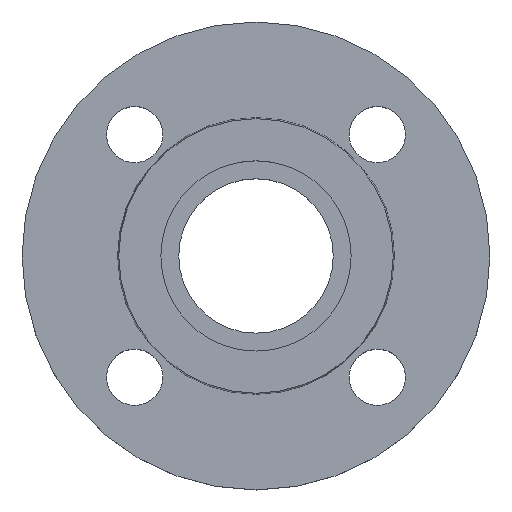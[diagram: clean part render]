
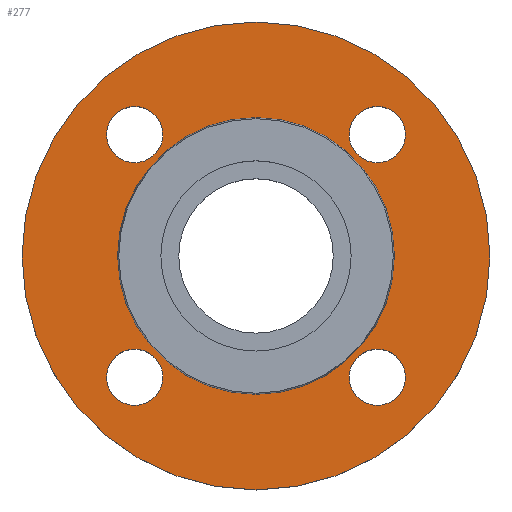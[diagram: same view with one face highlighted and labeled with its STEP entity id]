
A CAD part, top view. The second image highlights one B-rep face of the part: STEP entity #277.
In plain terms, the highlighted planar face has unit normal (0, 0, 1).
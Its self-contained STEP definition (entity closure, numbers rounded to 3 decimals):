
#1 = CIRCLE ( 'NONE', #227, 44.353 ) ;
#4 = AXIS2_PLACEMENT_3D ( 'NONE', #588, #589, #590 ) ;
#5 = CIRCLE ( 'NONE', #4, 9. ) ;
#25 = AXIS2_PLACEMENT_3D ( 'NONE', #542, #543, #544 ) ;
#26 = CIRCLE ( 'NONE', #25, 9. ) ;
#30 = AXIS2_PLACEMENT_3D ( 'NONE', #638, #639, #640 ) ;
#41 = CIRCLE ( 'NONE', #154, 9. ) ;
#46 = EDGE_CURVE ( 'NONE', #485, #241, #62, .T. ) ;
#51 = CIRCLE ( 'NONE', #30, 9. ) ;
#59 = AXIS2_PLACEMENT_3D ( 'NONE', #523, #524, #525 ) ;
#62 = CIRCLE ( 'NONE', #59, 9. ) ;
#67 = AXIS2_PLACEMENT_3D ( 'NONE', #339, #343, #344 ) ;
#72 = CIRCLE ( 'NONE', #67, 9. ) ;
#73 = CARTESIAN_POINT ( 'NONE',  ( 0., 0., -2. ) ) ;
#79 = CARTESIAN_POINT ( 'NONE',  ( -29.891, -38.891, -2. ) ) ;
#88 = CIRCLE ( 'NONE', #178, 75. ) ;
#94 = DIRECTION ( 'NONE',  ( -1., 0., 0. ) ) ;
#95 = DIRECTION ( 'NONE',  ( 0., 0., -1. ) ) ;
#97 = AXIS2_PLACEMENT_3D ( 'NONE', #214, #246, #249 ) ;
#102 = EDGE_CURVE ( 'NONE', #477, #473, #26, .T. ) ;
#108 = CIRCLE ( 'NONE', #97, 9. ) ;
#109 = AXIS2_PLACEMENT_3D ( 'NONE', #211, #212, #216 ) ;
#111 = CIRCLE ( 'NONE', #109, 75. ) ;
#121 = CARTESIAN_POINT ( 'NONE',  ( 29.891, 38.891, -2. ) ) ;
#124 = CARTESIAN_POINT ( 'NONE',  ( 47.891, 38.891, -2. ) ) ;
#126 = CARTESIAN_POINT ( 'NONE',  ( -47.891, 38.891, -2. ) ) ;
#135 = AXIS2_PLACEMENT_3D ( 'NONE', #284, #285, #286 ) ;
#138 = AXIS2_PLACEMENT_3D ( 'NONE', #264, #266, #267 ) ;
#141 = CARTESIAN_POINT ( 'NONE',  ( -44.353, 0., -2. ) ) ;
#144 = CARTESIAN_POINT ( 'NONE',  ( 44.353, 0., -2. ) ) ;
#145 = CARTESIAN_POINT ( 'NONE',  ( -75., 0., -2. ) ) ;
#151 = AXIS2_PLACEMENT_3D ( 'NONE', #281, #282, #283 ) ;
#153 = CARTESIAN_POINT ( 'NONE',  ( 47.891, -38.891, -2. ) ) ;
#154 = AXIS2_PLACEMENT_3D ( 'NONE', #656, #657, #658 ) ;
#155 = CARTESIAN_POINT ( 'NONE',  ( -47.891, -38.891, -2. ) ) ;
#156 = CARTESIAN_POINT ( 'NONE',  ( 75., 0., -2. ) ) ;
#160 = CIRCLE ( 'NONE', #135, 44.353 ) ;
#167 = CIRCLE ( 'NONE', #138, 9. ) ;
#178 = AXIS2_PLACEMENT_3D ( 'NONE', #73, #95, #94 ) ;
#192 = EDGE_CURVE ( 'NONE', #480, #245, #5, .T. ) ;
#198 = EDGE_CURVE ( 'NONE', #481, #497, #1, .T. ) ;
#202 = CARTESIAN_POINT ( 'NONE',  ( -29.891, 38.891, -2. ) ) ;
#208 = CARTESIAN_POINT ( 'NONE',  ( 29.891, -38.891, -2. ) ) ;
#211 = CARTESIAN_POINT ( 'NONE',  ( 0., 0., -2. ) ) ;
#212 = DIRECTION ( 'NONE',  ( 0., 0., -1. ) ) ;
#214 = CARTESIAN_POINT ( 'NONE',  ( 38.891, 38.891, -2. ) ) ;
#216 = DIRECTION ( 'NONE',  ( -1., 0., 0. ) ) ;
#223 = EDGE_CURVE ( 'NONE', #375, #499, #51, .T. ) ;
#227 = AXIS2_PLACEMENT_3D ( 'NONE', #596, #597, #598 ) ;
#228 = EDGE_CURVE ( 'NONE', #241, #485, #41, .T. ) ;
#236 = EDGE_CURVE ( 'NONE', #493, #479, #88, .T. ) ;
#241 = VERTEX_POINT ( 'NONE', #202 ) ;
#244 = EDGE_LOOP ( 'NONE', ( #406, #407 ) ) ;
#245 = VERTEX_POINT ( 'NONE', #208 ) ;
#246 = DIRECTION ( 'NONE',  ( 0., 0., -1. ) ) ;
#247 = EDGE_LOOP ( 'NONE', ( #404, #405 ) ) ;
#249 = DIRECTION ( 'NONE',  ( 1., 0., 0. ) ) ;
#252 = EDGE_CURVE ( 'NONE', #479, #493, #111, .T. ) ;
#261 = EDGE_CURVE ( 'NONE', #473, #477, #108, .T. ) ;
#264 = CARTESIAN_POINT ( 'NONE',  ( -38.891, -38.891, -2. ) ) ;
#266 = DIRECTION ( 'NONE',  ( 0., 0., -1. ) ) ;
#267 = DIRECTION ( 'NONE',  ( 1., 0., 0. ) ) ;
#268 = EDGE_CURVE ( 'NONE', #499, #375, #167, .T. ) ;
#273 = FACE_BOUND ( 'NONE', #498, .T. ) ;
#274 = FACE_BOUND ( 'NONE', #491, .T. ) ;
#275 = FACE_BOUND ( 'NONE', #466, .T. ) ;
#276 = FACE_BOUND ( 'NONE', #247, .T. ) ;
#277 = ADVANCED_FACE ( 'NONE', ( #273, #274, #275, #276, #278, #279 ), #280, .T. ) ;
#278 = FACE_BOUND ( 'NONE', #244, .T. ) ;
#279 = FACE_OUTER_BOUND ( 'NONE', #475, .T. ) ;
#280 = PLANE ( 'NONE',  #151 ) ;
#281 = CARTESIAN_POINT ( 'NONE',  ( 44.353, 0., -2. ) ) ;
#282 = DIRECTION ( 'NONE',  ( 0., 0., 1. ) ) ;
#283 = DIRECTION ( 'NONE',  ( 1., 0., 0. ) ) ;
#284 = CARTESIAN_POINT ( 'NONE',  ( 0., 0., -2. ) ) ;
#285 = DIRECTION ( 'NONE',  ( 0., 0., -1. ) ) ;
#286 = DIRECTION ( 'NONE',  ( -1., 0., 0. ) ) ;
#290 = EDGE_CURVE ( 'NONE', #497, #481, #160, .T. ) ;
#339 = CARTESIAN_POINT ( 'NONE',  ( 38.891, -38.891, -2. ) ) ;
#343 = DIRECTION ( 'NONE',  ( 0., 0., -1. ) ) ;
#344 = DIRECTION ( 'NONE',  ( 1., 0., 0. ) ) ;
#375 = VERTEX_POINT ( 'NONE', #79 ) ;
#397 = ORIENTED_EDGE ( 'NONE', *, *, #192, .T. ) ;
#398 = ORIENTED_EDGE ( 'NONE', *, *, #618, .T. ) ;
#399 = ORIENTED_EDGE ( 'NONE', *, *, #223, .T. ) ;
#400 = ORIENTED_EDGE ( 'NONE', *, *, #268, .T. ) ;
#401 = ORIENTED_EDGE ( 'NONE', *, *, #228, .T. ) ;
#403 = ORIENTED_EDGE ( 'NONE', *, *, #46, .T. ) ;
#404 = ORIENTED_EDGE ( 'NONE', *, *, #102, .T. ) ;
#405 = ORIENTED_EDGE ( 'NONE', *, *, #261, .T. ) ;
#406 = ORIENTED_EDGE ( 'NONE', *, *, #290, .T. ) ;
#407 = ORIENTED_EDGE ( 'NONE', *, *, #198, .T. ) ;
#409 = ORIENTED_EDGE ( 'NONE', *, *, #252, .F. ) ;
#410 = ORIENTED_EDGE ( 'NONE', *, *, #236, .F. ) ;
#466 = EDGE_LOOP ( 'NONE', ( #401, #403 ) ) ;
#473 = VERTEX_POINT ( 'NONE', #121 ) ;
#475 = EDGE_LOOP ( 'NONE', ( #409, #410 ) ) ;
#477 = VERTEX_POINT ( 'NONE', #124 ) ;
#479 = VERTEX_POINT ( 'NONE', #156 ) ;
#480 = VERTEX_POINT ( 'NONE', #153 ) ;
#481 = VERTEX_POINT ( 'NONE', #144 ) ;
#485 = VERTEX_POINT ( 'NONE', #126 ) ;
#491 = EDGE_LOOP ( 'NONE', ( #399, #400 ) ) ;
#493 = VERTEX_POINT ( 'NONE', #145 ) ;
#497 = VERTEX_POINT ( 'NONE', #141 ) ;
#498 = EDGE_LOOP ( 'NONE', ( #397, #398 ) ) ;
#499 = VERTEX_POINT ( 'NONE', #155 ) ;
#523 = CARTESIAN_POINT ( 'NONE',  ( -38.891, 38.891, -2. ) ) ;
#524 = DIRECTION ( 'NONE',  ( 0., 0., -1. ) ) ;
#525 = DIRECTION ( 'NONE',  ( 1., 0., 0. ) ) ;
#542 = CARTESIAN_POINT ( 'NONE',  ( 38.891, 38.891, -2. ) ) ;
#543 = DIRECTION ( 'NONE',  ( 0., 0., -1. ) ) ;
#544 = DIRECTION ( 'NONE',  ( 1., 0., 0. ) ) ;
#588 = CARTESIAN_POINT ( 'NONE',  ( 38.891, -38.891, -2. ) ) ;
#589 = DIRECTION ( 'NONE',  ( 0., 0., -1. ) ) ;
#590 = DIRECTION ( 'NONE',  ( 1., 0., 0. ) ) ;
#596 = CARTESIAN_POINT ( 'NONE',  ( 0., 0., -2. ) ) ;
#597 = DIRECTION ( 'NONE',  ( 0., 0., -1. ) ) ;
#598 = DIRECTION ( 'NONE',  ( -1., 0., 0. ) ) ;
#618 = EDGE_CURVE ( 'NONE', #245, #480, #72, .T. ) ;
#638 = CARTESIAN_POINT ( 'NONE',  ( -38.891, -38.891, -2. ) ) ;
#639 = DIRECTION ( 'NONE',  ( 0., 0., -1. ) ) ;
#640 = DIRECTION ( 'NONE',  ( 1., 0., 0. ) ) ;
#656 = CARTESIAN_POINT ( 'NONE',  ( -38.891, 38.891, -2. ) ) ;
#657 = DIRECTION ( 'NONE',  ( 0., 0., -1. ) ) ;
#658 = DIRECTION ( 'NONE',  ( 1., 0., 0. ) ) ;
